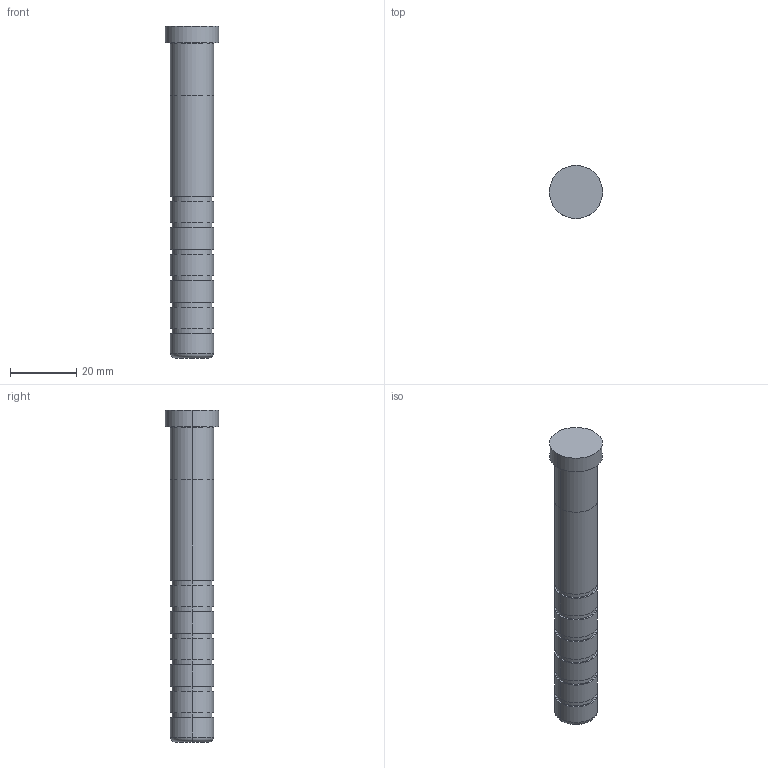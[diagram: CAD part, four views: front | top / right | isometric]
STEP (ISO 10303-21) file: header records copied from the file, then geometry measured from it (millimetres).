
FILE_DESCRIPTION(/* description */ (''),/* implementation_level */ '2;1');
FILE_NAME(/* name */ '3d_sgoh13-100_05228_r00.stp',/* time_stamp */ '2011-01-10T14:11:10+09:00',/* author */ ('MISUMI'),/* organization */ (''),/* preprocessor_version */ 'ST-DEVELOPER v11',/* originating_system */ 'UGS - NX 5.0',/* authorisation */ '');
FILE_SCHEMA (('CONFIG_CONTROL_DESIGN'));
Length unit declared in the file: millimetre
Products named in the file (1): 3d_sgoh13-100_05228_r00
Bounding box: 16 x 16 x 100 mm (x, y, z)
Volume: 13420 mm3; surface area: 4709 mm2
Topology: 1 solids, 1 shells, 49 faces, 96 edges, 62 vertices
Faces by surface type: cylinder 30, plane 15, torus 4
Entity records: 1374 total; most frequent: DIRECTION 262, CARTESIAN_POINT 208, ORIENTED_EDGE 192, AXIS2_PLACEMENT_3D 116, EDGE_CURVE 96, CIRCLE 66, EDGE_LOOP 62, VERTEX_POINT 62
